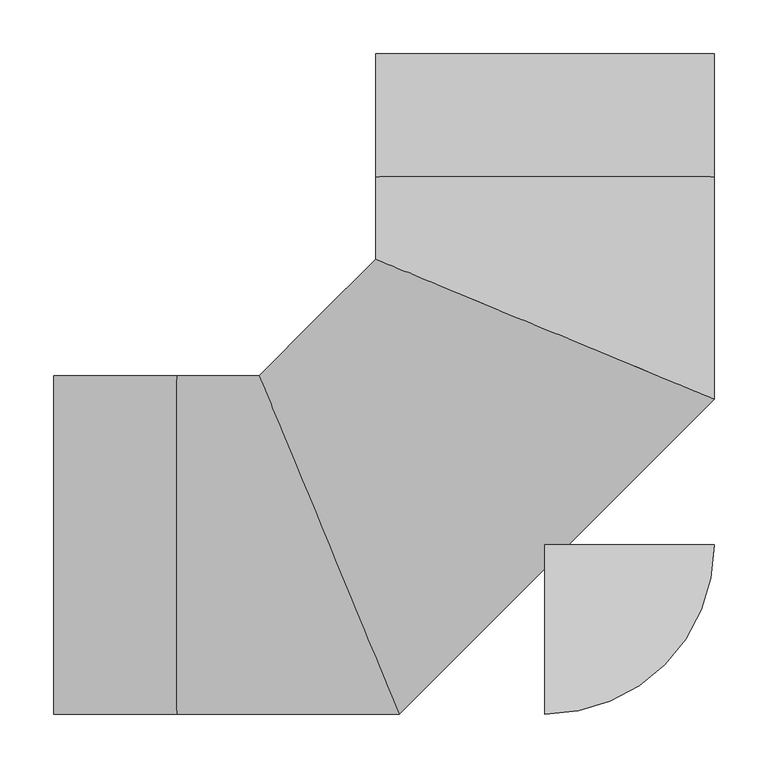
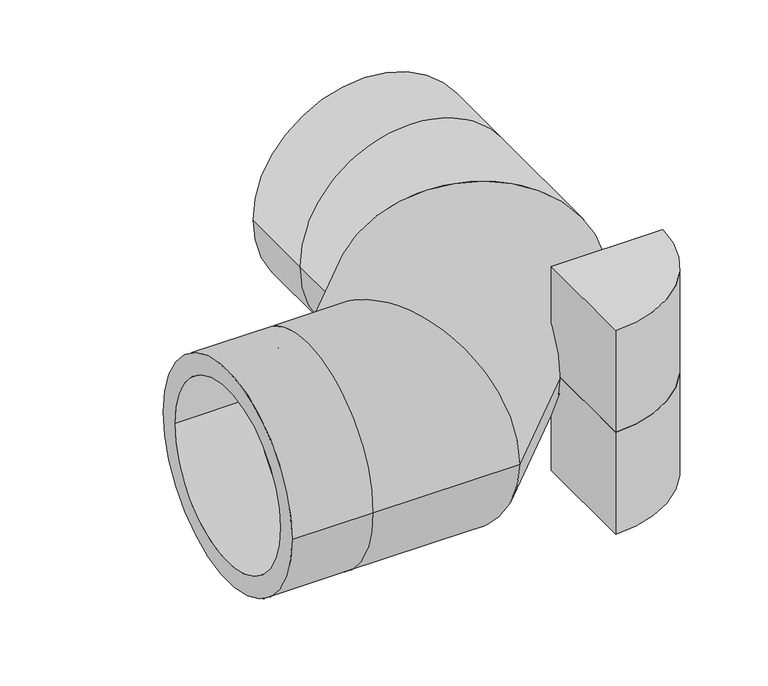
"""IFC4 building model written with IfcOpenShell, lengths in millimetres: pipe fitting geometry, Aquatherm - Elbow Green BW Segmented : SDR 11 NON-FASER."""

from ifc_helpers import new_model, si_unit, point, frame, origin, origin_with_axes, origin_2d, place, context, project, spatial, polyline, circle_curve, ellipse_curve, trimmed, segment, composite_curve, outline, extrude, source, transform, mapped, element, save
from ifc_brep_helpers import plane_surface, cylinder_surface, revolved_surface, advanced_brep


def pipe_fitting_d65bdee5(model_context):
    return source(origin(), model_context, "Body", "SolidModel", [
        extrude(outline(composite_curve([segment(polyline([(0.0, -157.48), (0.0, 0.0), (157.48, 0.0)]), True, "CONTINUOUS"), segment(trimmed(circle_curve(origin_2d(), 157.48), [point((157.48, 0.0))], [point((0.0, -157.48))], False, "CARTESIAN"), True, "CONTINUOUS")], self_intersect=False)), frame((0.0, 0.0, -152.4), z_axis=(0.0, 0.0, 1.0), x_axis=(1.0, 0.0, 0.0)), (0.0, 0.0, 1.0), 152.4),
        extrude(outline(composite_curve([segment(trimmed(circle_curve(origin_2d(), 157.48), [point((157.48, 0.0))], [point((0.0, -157.48))], False, "CARTESIAN"), True, "CONTINUOUS"), segment(polyline([(0.0, -157.48), (0.0, 0.0), (157.48, 0.0)]), True, "CONTINUOUS")], self_intersect=False)), origin_with_axes(), (0.0, 0.0, 1.0), 152.4),
        advanced_brep(
        [(-457.2, -157.48, 0.0), (-457.2, 157.48, 0.0), (-457.2, -128.8472727, 0.0), (-457.2, 128.8472727, 0.0), (157.48, 457.2, 0.0), (-157.48, 457.2, 0.0), (128.8472727, 457.2, 0.0), (-128.8472727, 457.2, 0.0), (-342.9, -157.48, 0.0), (-342.9, 157.48, 0.0), (-342.9, -128.8472727, 0.0), (-342.9, 128.8472727, 0.0), (-135.6358177, -157.48, 0.0), (-266.0965213, 157.48, 0.0), (-147.4958816, -128.8472727, 0.0), (-254.2364573, 128.8472727, 0.0), (157.48, 135.6358177, 0.0), (-157.48, 266.0965213, 0.0), (128.8472727, 147.4958816, 0.0), (-128.8472727, 254.2364573, 0.0), (-157.48, 342.9, 0.0), (157.48, 342.9, 0.0), (-128.8472727, 342.9, 0.0), (128.8472727, 342.9, 0.0)],
        [
            (0, 1, circle_curve(frame((-457.2, 0.0, 0.0), z_axis=(-1.0, 0.0, 0.0), x_axis=(0.0, 1.0, 0.0)), 157.48)),
            (1, 0, circle_curve(frame((-457.2, 0.0, 0.0), z_axis=(-1.0, 0.0, 0.0), x_axis=(0.0, 1.0, 0.0)), 157.48)),
            (2, 3, circle_curve(frame((-457.2, 0.0, 0.0), z_axis=(1.0, 0.0, 0.0), x_axis=(0.0, 1.0, 0.0)), 128.8472727)),
            (3, 2, circle_curve(frame((-457.2, 0.0, 0.0), z_axis=(1.0, 0.0, 0.0), x_axis=(0.0, 1.0, 0.0)), 128.8472727)),
            (4, 5, circle_curve(frame((0.0, 457.2, 0.0), z_axis=(0.0, 1.0, 0.0), x_axis=(-1.0, 0.0, 0.0)), 157.48)),
            (5, 4, circle_curve(frame((0.0, 457.2, 0.0), z_axis=(0.0, 1.0, 0.0), x_axis=(-1.0, 0.0, 0.0)), 157.48)),
            (6, 7, circle_curve(frame((0.0, 457.2, 0.0), z_axis=(0.0, -1.0, 0.0), x_axis=(-1.0, 0.0, 0.0)), 128.8472727)),
            (7, 6, circle_curve(frame((0.0, 457.2, 0.0), z_axis=(0.0, -1.0, 0.0), x_axis=(-1.0, 0.0, 0.0)), 128.8472727)),
            (0, 8),
            (8, 9, circle_curve(frame((-342.9, 0.0, 0.0), z_axis=(-1.0, 0.0, 0.0), x_axis=(0.0, 1.0, 0.0)), 157.48)),
            (9, 1),
            (9, 8, circle_curve(frame((-342.9, 0.0, 0.0), z_axis=(-1.0, 0.0, 0.0), x_axis=(0.0, 1.0, 0.0)), 157.48)),
            (2, 10),
            (10, 11, circle_curve(frame((-342.9, 0.0, 0.0), z_axis=(1.0, 0.0, 0.0), x_axis=(0.0, 1.0, 0.0)), 128.8472727)),
            (11, 3),
            (11, 10, circle_curve(frame((-342.9, 0.0, 0.0), z_axis=(1.0, 0.0, 0.0), x_axis=(0.0, 1.0, 0.0)), 128.8472727)),
            (8, 12),
            (12, 13, ellipse_curve(frame((-200.8661695, 0.0, 0.0), z_axis=(-0.9238795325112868, -0.3826834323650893, 0.0), x_axis=(-0.3826834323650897, 0.9238795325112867, 0.0)), 170.4551237, 157.48)),
            (13, 9),
            (13, 12, ellipse_curve(frame((-200.8661695, 0.0, 0.0), z_axis=(-0.9238795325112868, -0.3826834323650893, 0.0), x_axis=(-0.3826834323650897, 0.9238795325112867, 0.0)), 170.4551237, 157.48)),
            (10, 14),
            (14, 15, ellipse_curve(frame((-200.8661695, 0.0, 0.0), z_axis=(0.9238795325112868, 0.3826834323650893, 0.0), x_axis=(0.3826834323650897, -0.9238795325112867, 0.0)), 139.463283, 128.8472727)),
            (15, 11),
            (15, 14, ellipse_curve(frame((-200.8661695, 0.0, 0.0), z_axis=(0.9238795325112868, 0.3826834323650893, 0.0), x_axis=(0.3826834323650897, -0.9238795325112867, 0.0)), 139.463283, 128.8472727)),
            (12, 16),
            (16, 17, ellipse_curve(frame((0.0, 200.8661695, 0.0), z_axis=(-0.3826834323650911, -0.9238795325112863, 0.0), x_axis=(-0.923879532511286, 0.3826834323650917, 0.0)), 170.4551237, 157.48)),
            (17, 13),
            (17, 16, ellipse_curve(frame((0.0, 200.8661695, 0.0), z_axis=(-0.3826834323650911, -0.9238795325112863, 0.0), x_axis=(-0.923879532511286, 0.3826834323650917, 0.0)), 170.4551237, 157.48)),
            (14, 18),
            (18, 19, ellipse_curve(frame((0.0, 200.8661695, 0.0), z_axis=(0.3826834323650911, 0.9238795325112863, 0.0), x_axis=(0.923879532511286, -0.3826834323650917, 0.0)), 139.463283, 128.8472727)),
            (19, 15),
            (19, 18, ellipse_curve(frame((0.0, 200.8661695, 0.0), z_axis=(0.3826834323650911, 0.9238795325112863, 0.0), x_axis=(0.923879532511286, -0.3826834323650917, 0.0)), 139.463283, 128.8472727)),
            (20, 21, circle_curve(frame((0.0, 342.9, 0.0), z_axis=(0.0, 1.0, 0.0), x_axis=(-1.0, 0.0, 0.0)), 157.48)),
            (21, 4),
            (5, 20),
            (21, 20, circle_curve(frame((0.0, 342.9, 0.0), z_axis=(0.0, 1.0, 0.0), x_axis=(-1.0, 0.0, 0.0)), 157.48)),
            (22, 23, circle_curve(frame((0.0, 342.9, 0.0), z_axis=(0.0, -1.0, 0.0), x_axis=(-1.0, 0.0, 0.0)), 128.8472727)),
            (23, 6),
            (7, 22),
            (23, 22, circle_curve(frame((0.0, 342.9, 0.0), z_axis=(0.0, -1.0, 0.0), x_axis=(-1.0, 0.0, 0.0)), 128.8472727)),
            (16, 21),
            (20, 17),
            (18, 23),
            (22, 19),
        ],
        [
            plane_surface(frame((-457.2, 0.0, 0.0), z_axis=(-1.0, 0.0, 0.0), x_axis=(0.0, 0.0, 1.0))),
            plane_surface(frame((0.0, 457.2, 0.0), z_axis=(0.0, 1.0, 0.0), x_axis=(0.0, 0.0, 1.0))),
            cylinder_surface(frame((-457.2, 0.0, 0.0), z_axis=(-1.0, 0.0, 0.0), x_axis=(0.0, 1.0, 0.0)), 157.48),
            revolved_surface(polyline([(-342.9, 128.8472727, 0.0), (-457.2, 128.8472727, 0.0)]), (-457.2, 0.0, 0.0), (1.0, 0.0, 0.0)),
            cylinder_surface(frame((-342.9, 0.0, 0.0), z_axis=(-1.0, 0.0, 0.0), x_axis=(0.0, 1.0, 0.0)), 157.48),
            revolved_surface(polyline([(-147.4958816, 128.8472727, 0.0), (-342.9, 128.8472727, 0.0)]), (-342.9, 0.0, 0.0), (1.0, 0.0, 0.0)),
            cylinder_surface(frame((-200.8661695, 0.0, 0.0), z_axis=(-0.7071067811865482, -0.7071067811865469, 0.0), x_axis=(-0.7071067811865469, 0.7071067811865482, 0.0)), 157.48),
            revolved_surface(polyline([(-53.37028782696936, 329.7134422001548, 0.0), (-329.7134422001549, 53.370287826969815, 0.0)]), (-200.8661695, 0.0, 0.0), (0.7071067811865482, 0.7071067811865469, 0.0)),
            cylinder_surface(frame((0.0, 342.9, 0.0), z_axis=(0.0, -1.0, 0.0), x_axis=(-1.0, 0.0, 0.0)), 157.48),
            revolved_surface(polyline([(-128.8472727, 457.2, 0.0), (-128.8472727, 342.9, 0.0)]), (0.0, 342.9, 0.0), (0.0, 1.0, 0.0)),
            cylinder_surface(frame((0.0, 200.8661695, 0.0), z_axis=(0.0, -1.0, 0.0), x_axis=(-1.0, 0.0, 0.0)), 157.48),
            revolved_surface(polyline([(-128.8472727, 342.9, 0.0), (-128.8472727, 147.4958816, 0.0)]), (0.0, 200.8661695, 0.0), (0.0, 1.0, 0.0)),
        ],
        [
            (0, [[1, 2], [3, 4]]),
            (1, [[5, 6], [7, 8]]),
            (2, [[-1, 9, 10, 11]]),
            (2, [[-2, -11, 12, -9]]),
            (3, [[-3, 13, 14, 15]]),
            (3, [[-4, -15, 16, -13]]),
            (4, [[-10, 17, 18, 19]]),
            (4, [[-12, -19, 20, -17]]),
            (5, [[-14, 21, 22, 23]]),
            (5, [[-16, -23, 24, -21]]),
            (6, [[-18, 25, 26, 27]]),
            (6, [[-20, -27, 28, -25]]),
            (7, [[-22, 29, 30, 31]]),
            (7, [[-24, -31, 32, -29]]),
            (8, [[33, 34, -6, 35]]),
            (8, [[36, -35, -5, -34]]),
            (9, [[37, 38, -8, 39]]),
            (9, [[40, -39, -7, -38]]),
            (10, [[-26, 41, -33, 42]]),
            (10, [[-28, -42, -36, -41]]),
            (11, [[-30, 43, -37, 44]]),
            (11, [[-32, -44, -40, -43]]),
        ],
    ),
    ])


if __name__ == "__main__":
    model = new_model("IFC4")
    model_context = context("Model", 3, world=origin())
    ifc_project = project(units=[si_unit("LENGTHUNIT", "METRE", prefix="MILLI")], contexts=[model_context])
    site = spatial("IfcSite", under=ifc_project)
    building = spatial("IfcBuilding", under=site)
    placement = place(None, origin())
    pipe_fitting_shape = pipe_fitting_d65bdee5(model_context)
    element("IfcPipeFitting", 1, ObjectType="Aquatherm - Elbow Green BW Segmented : SDR 11 NON-FASER", at=placement, inside=building, context=model_context, shape_type="MappedRepresentation", body=[
        mapped(pipe_fitting_shape, transform((0.0, 0.0, 0.0), x_axis=(1.0, 0.0, 0.0), y_axis=(0.0, 1.0, 0.0), z_axis=(0.0, 0.0, 1.0))),
    ])
    save(model, "model.ifc")
